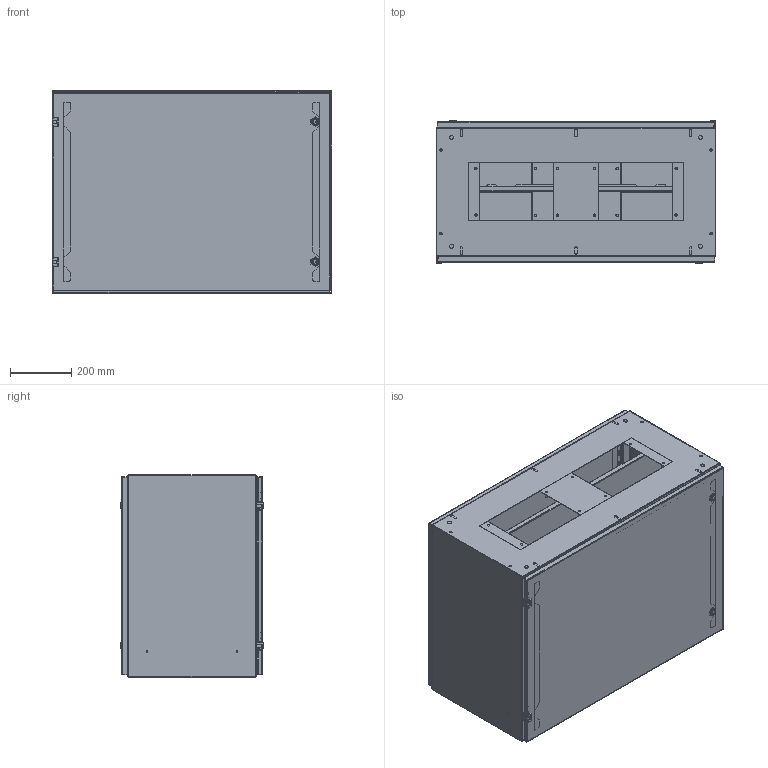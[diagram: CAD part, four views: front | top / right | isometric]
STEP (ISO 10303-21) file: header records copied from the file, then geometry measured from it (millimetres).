
FILE_DESCRIPTION( ( 'Unknown' ), '1' );
FILE_NAME( 'Q:/2000 SERIES/BASE UNITS/WEB DRAWINGS/STEP/2CSBX263618.stp', 'Unknown', ( 'Unknown' ), ( 'Unknown' ), 'XStep 1.0', 'Unknown', ' ' );
FILE_SCHEMA( ( 'CONFIG_CONTROL_DESIGN' ) );
Length unit declared in the file: millimetre
Products named in the file (37): Assem1; Assem2; Assem3; Assem4; Assem5; Assem6; Assem7; 1; 2; 3; 4; 5; 6; 7; 8; 9; 10; 11; 12; 13; 14; 15; 16; 17; 18; 19; 20; 21; 22; 23; 24; 25; 26; 27; 28; 29; 30
Bounding box: 914.4 x 466.49 x 660.4 mm (x, y, z)
Volume: 15406236.6 mm3; surface area: 16941302.5 mm2
Topology: 143 solids, 143 shells, 3566 faces, 8387 edges, 5243 vertices
Faces by surface type: plane 2198, cylinder 1069, bspline 260, torus 27, cone 12
Full cylindrical faces by diameter (mm): 5 x12, 5.537 x18, 5.969 x6, 6 x6, 6.096 x6, 6.35 x76, 7.137 x140, 7.938 x76, 9.804 x9, 9.83 x12, 12.7 x12, 13.335 x6, 15.875 x6, 16.002 x6, 19.5 x6, 19.939 x6, 25.4 x6
Entity records: 26816 total; most frequent: CARTESIAN_POINT 7382, DIRECTION 3642, ORIENTED_EDGE 3484, EDGE_CURVE 1742, AXIS2_PLACEMENT_3D 1251, LINE 1140, VECTOR 1140, VERTEX_POINT 1127
